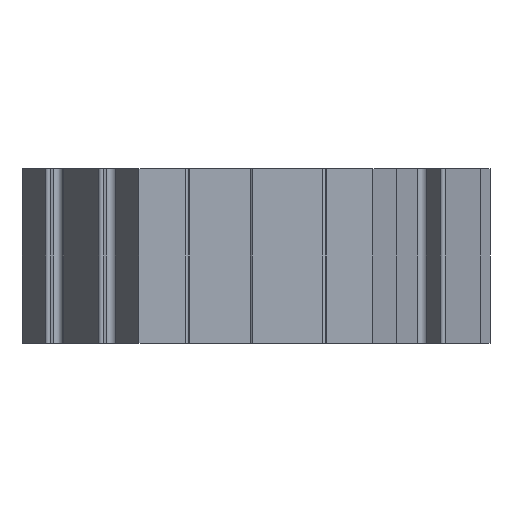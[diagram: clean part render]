
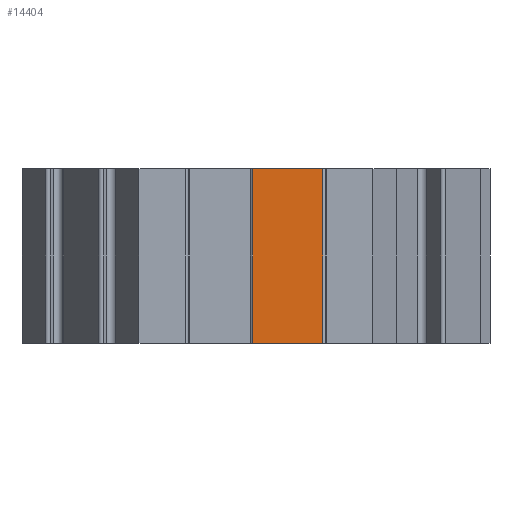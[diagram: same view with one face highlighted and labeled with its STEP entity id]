
A CAD part, front view. The second image highlights one B-rep face of the part: STEP entity #14404.
In plain terms, the highlighted planar face has unit normal (0, -1, 0).
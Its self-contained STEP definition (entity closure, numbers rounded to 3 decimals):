
#844=PLANE('',#15272);
#1609=FACE_OUTER_BOUND('',#2403,.T.);
#2403=EDGE_LOOP('',(#12622,#12623,#12624,#12625));
#4307=LINE('',#22767,#6142);
#4308=LINE('',#22770,#6143);
#4309=LINE('',#22772,#6144);
#4310=LINE('',#22773,#6145);
#6142=VECTOR('',#18699,10.);
#6143=VECTOR('',#18702,10.);
#6144=VECTOR('',#18703,10.);
#6145=VECTOR('',#18704,10.);
#7588=VERTEX_POINT('',#22763);
#7589=VERTEX_POINT('',#22765);
#7590=VERTEX_POINT('',#22769);
#7591=VERTEX_POINT('',#22771);
#9489=EDGE_CURVE('',#7588,#7589,#4307,.T.);
#9490=EDGE_CURVE('',#7588,#7590,#4308,.T.);
#9491=EDGE_CURVE('',#7591,#7589,#4309,.F.);
#9492=EDGE_CURVE('',#7590,#7591,#4310,.T.);
#12622=ORIENTED_EDGE('',*,*,#9490,.F.);
#12623=ORIENTED_EDGE('',*,*,#9489,.T.);
#12624=ORIENTED_EDGE('',*,*,#9491,.F.);
#12625=ORIENTED_EDGE('',*,*,#9492,.F.);
#14404=ADVANCED_FACE('',(#1609),#844,.T.);
#15272=AXIS2_PLACEMENT_3D('',#22768,#18700,#18701);
#18699=DIRECTION('',(0.,0.,1.));
#18700=DIRECTION('center_axis',(0.,-1.,0.));
#18701=DIRECTION('ref_axis',(1.,0.,0.));
#18702=DIRECTION('',(-1.,0.,0.));
#18703=DIRECTION('',(-1.,0.,0.));
#18704=DIRECTION('',(0.,0.,1.));
#22763=CARTESIAN_POINT('',(10.859,-42.8,0.));
#22765=CARTESIAN_POINT('',(10.859,-42.8,30.));
#22767=CARTESIAN_POINT('',(10.859,-42.8,0.));
#22768=CARTESIAN_POINT('Origin',(-1.141,-42.8,0.));
#22769=CARTESIAN_POINT('',(-1.141,-42.8,0.));
#22770=CARTESIAN_POINT('',(10.859,-42.8,0.));
#22771=CARTESIAN_POINT('',(-1.141,-42.8,30.));
#22772=CARTESIAN_POINT('',(-0.882,-42.8,30.));
#22773=CARTESIAN_POINT('',(-1.141,-42.8,0.));
